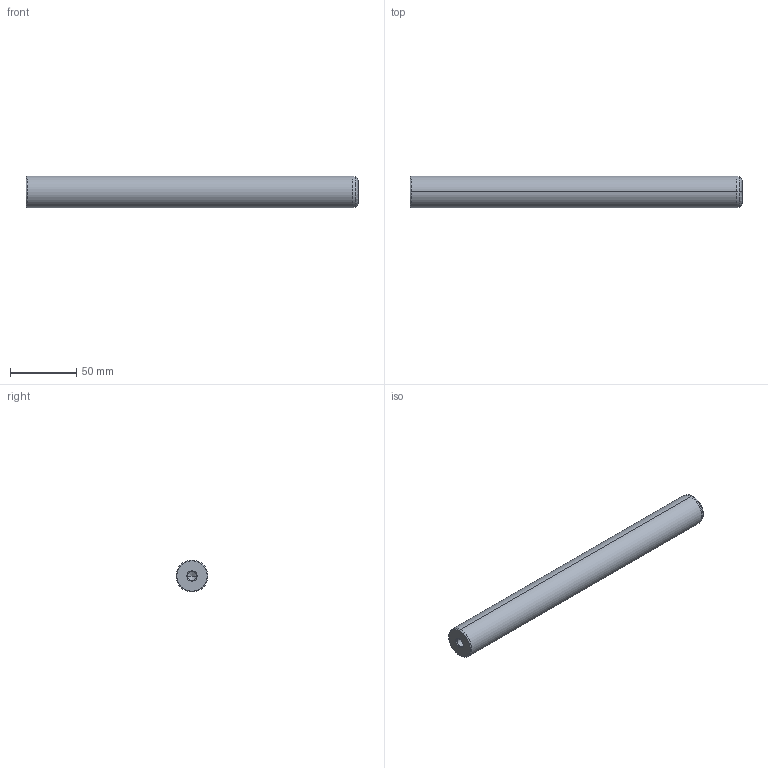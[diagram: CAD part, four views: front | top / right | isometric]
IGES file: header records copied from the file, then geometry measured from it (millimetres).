
Start section: START RECORD GO HERE.
Global section: file name: 720-24x250.igs; native system: DASSAULT SYSTEMES CATIA V5 R20 - www.3ds.com; preprocessor: CATIA Version 5 Release 20 ; author: Utente; organization: NB04-ASUS; date: 20210101.135023; units: millimetre
Bounding box: 250 x 24 x 24 mm (x, y, z)
Surface area: 20589.6 mm2 (no closed solid volume)
Topology: 0 solids, 0 shells, 22 faces, 108 edges, 104 vertices
Faces by surface type: revolution 20, plane 2
